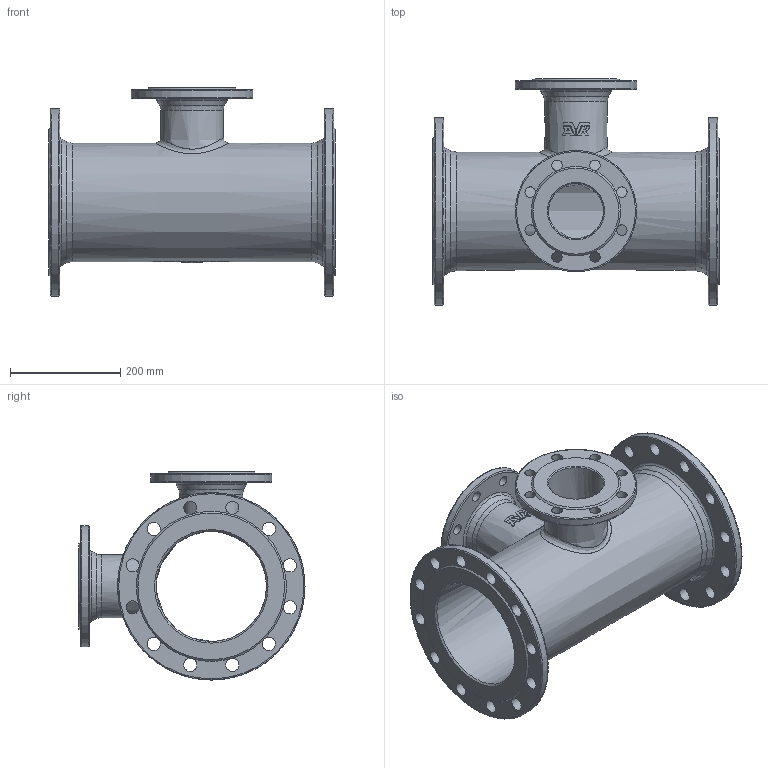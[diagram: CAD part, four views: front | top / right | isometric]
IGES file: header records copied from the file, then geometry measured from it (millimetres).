
Start section: SolidWorks IGES file using analytic representation for surfaces
Global section: file name: \\avksan2\techshare\PBM outline export from Enovia\O_712_1110_DN100_DN200_1_AA1.igs; native system: SolidWorks 2012; preprocessor: SolidWorks 2012; author: pbm; date: 171013.100832; units: millimetre
Bounding box: 520 x 410 x 377.5 mm (x, y, z)
Surface area: 1164964.2 mm2 (no closed solid volume)
Topology: 0 solids, 0 shells, 173 faces, 1179 edges, 1095 vertices
Faces by surface type: bspline 90, revolution 83
